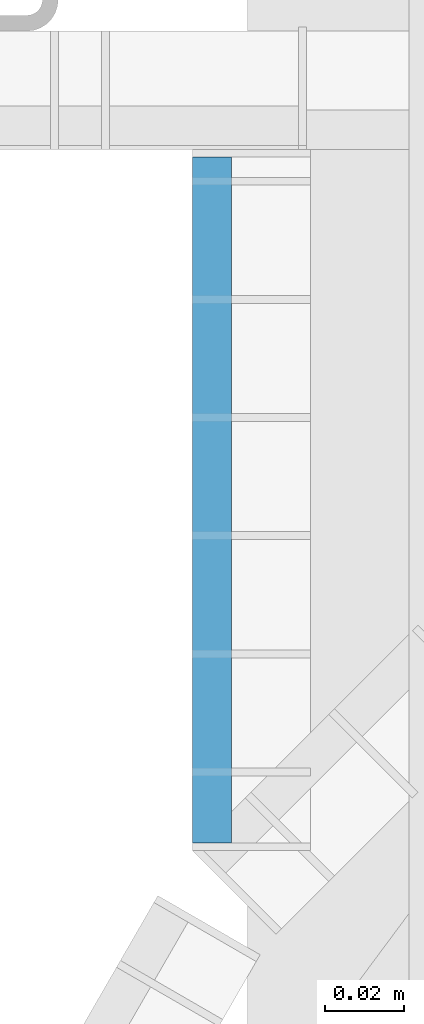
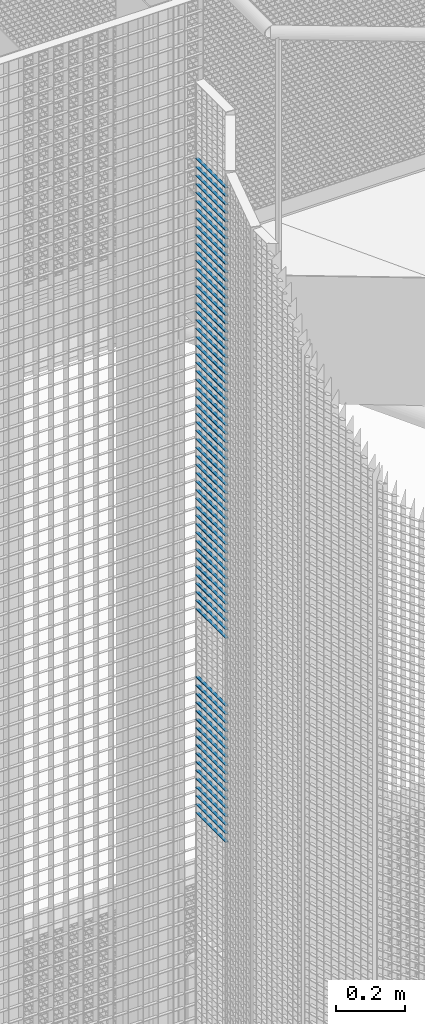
# One storey, part 187 of 1183: 71 beams, 1 element without a shape of its own.
"""IFC2X3 building model written with IfcOpenShell, lengths in millimetres."""

from ifc_helpers import new_model, si_unit, frame, origin_with_axes, origin_2d_with_axis, place, context, subcontext, project, spatial, rectangle, extrude, material, type_object, element, aggregate, save


model = new_model("IFC2X3")

# Units and contexts
model_context = context("Model", 3, precision=1e-05, world=origin_with_axes())
body_context = subcontext(model_context, "Body", "Model", "MODEL_VIEW")
ifc_project = project(units=[si_unit("LENGTHUNIT", "METRE", prefix="MILLI"), si_unit("AREAUNIT", "SQUARE_METRE"), si_unit("VOLUMEUNIT", "CUBIC_METRE"), si_unit("MASSUNIT", "GRAM", prefix="KILO"), si_unit("TIMEUNIT", "SECOND"), si_unit("PLANEANGLEUNIT", "RADIAN"), si_unit("SOLIDANGLEUNIT", "STERADIAN"), si_unit("THERMODYNAMICTEMPERATUREUNIT", "DEGREE_CELSIUS"), si_unit("LUMINOUSINTENSITYUNIT", "LUMEN")], contexts=[model_context])

# Site, building, storey
site_placement = place(None, origin_with_axes())
site = spatial("IfcSite", under=ifc_project, at=site_placement, Name="Undefined", CompositionType="ELEMENT")
building_placement = place(site_placement, origin_with_axes())
building = spatial("IfcBuilding", under=site, at=building_placement, Name="Undefined", CompositionType="ELEMENT")
storey_placement = place(building_placement, origin_with_axes())
storey = spatial("IfcBuildingStorey", under=building, at=storey_placement, Name="Undefined", CompositionType="ELEMENT", Elevation=0.0)

# Assembly, beams
assembly_placement = place(storey_placement, origin_with_axes())
assembly = element("IfcElementAssembly", 1, at=assembly_placement, inside=storey, Name="BORDURE", AssemblyPlace="NOTDEFINED", PredefinedType="NOTDEFINED")
ifc_material = material(Name="STEEL/S235JR")
beam_type = type_object("IfcBeamType", Name="PL2*10", PredefinedType="NOTDEFINED")
beam_1_placement = place(assembly_placement, frame((-884.882567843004, 867.997017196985, 17730.0), z_axis=(-1.0, 0.0, 0.0), x_axis=(0.0, -1.0, 0.0)))
beam_1 = element("IfcBeam", 2, at=beam_1_placement, type_object=beam_type, material=ifc_material, Name="ENTRETOISE", context=body_context, shape_type="SweptSolid", body=[
    extrude(rectangle(XDim=2.0, YDim=10.0, at=origin_2d_with_axis()), frame((174.109999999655, 0.0, 0.0), z_axis=(-1.0, 0.0, 0.0), x_axis=(0.0, -1.0, 0.0)), (0.0, 0.0, 1.0), 174.11),
])
beam_2_placement = place(assembly_placement, frame((-884.882567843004, 867.997017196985, 17700.0), z_axis=(-1.0, 0.0, 0.0), x_axis=(0.0, -1.0, 0.0)))
beam_2 = element("IfcBeam", 3, at=beam_2_placement, type_object=beam_type, material=ifc_material, Name="ENTRETOISE", context=body_context, shape_type="SweptSolid", body=[
    extrude(rectangle(XDim=2.0, YDim=10.0, at=origin_2d_with_axis()), frame((174.109999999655, 0.0, 0.0), z_axis=(-1.0, 0.0, 0.0), x_axis=(0.0, -1.0, 0.0)), (0.0, 0.0, 1.0), 174.11),
])
beam_3_placement = place(assembly_placement, frame((-884.882567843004, 867.997017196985, 17670.0), z_axis=(-1.0, 0.0, 0.0), x_axis=(0.0, -1.0, 0.0)))
beam_3 = element("IfcBeam", 4, at=beam_3_placement, type_object=beam_type, material=ifc_material, Name="ENTRETOISE", context=body_context, shape_type="SweptSolid", body=[
    extrude(rectangle(XDim=2.0, YDim=10.0, at=origin_2d_with_axis()), frame((174.109999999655, 0.0, 0.0), z_axis=(-1.0, 0.0, 0.0), x_axis=(0.0, -1.0, 0.0)), (0.0, 0.0, 1.0), 174.11),
])
beam_4_placement = place(assembly_placement, frame((-884.882567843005, 867.997017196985, 17640.0), z_axis=(-1.0, 0.0, 0.0), x_axis=(0.0, -1.0, 0.0)))
beam_4 = element("IfcBeam", 5, at=beam_4_placement, type_object=beam_type, material=ifc_material, Name="ENTRETOISE", context=body_context, shape_type="SweptSolid", body=[
    extrude(rectangle(XDim=2.0, YDim=10.0, at=origin_2d_with_axis()), frame((174.109999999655, 0.0, 0.0), z_axis=(-1.0, 0.0, 0.0), x_axis=(0.0, -1.0, 0.0)), (0.0, 0.0, 1.0), 174.11),
])
beam_5_placement = place(assembly_placement, frame((-884.882567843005, 867.997017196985, 17610.0), z_axis=(-1.0, 0.0, 0.0), x_axis=(0.0, -1.0, 0.0)))
beam_5 = element("IfcBeam", 6, at=beam_5_placement, type_object=beam_type, material=ifc_material, Name="ENTRETOISE", context=body_context, shape_type="SweptSolid", body=[
    extrude(rectangle(XDim=2.0, YDim=10.0, at=origin_2d_with_axis()), frame((174.109999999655, 0.0, 0.0), z_axis=(-1.0, 0.0, 0.0), x_axis=(0.0, -1.0, 0.0)), (0.0, 0.0, 1.0), 174.11),
])
beam_6_placement = place(assembly_placement, frame((-884.882567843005, 867.997017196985, 17580.0), z_axis=(-1.0, 0.0, 0.0), x_axis=(0.0, -1.0, 0.0)))
beam_6 = element("IfcBeam", 7, at=beam_6_placement, type_object=beam_type, material=ifc_material, Name="ENTRETOISE", context=body_context, shape_type="SweptSolid", body=[
    extrude(rectangle(XDim=2.0, YDim=10.0, at=origin_2d_with_axis()), frame((174.109999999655, 0.0, 0.0), z_axis=(-1.0, 0.0, 0.0), x_axis=(0.0, -1.0, 0.0)), (0.0, 0.0, 1.0), 174.11),
])
beam_7_placement = place(assembly_placement, frame((-884.882567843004, 867.997017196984, 17550.0), z_axis=(-1.0, 0.0, 0.0), x_axis=(0.0, -1.0, 0.0)))
beam_7 = element("IfcBeam", 8, at=beam_7_placement, type_object=beam_type, material=ifc_material, Name="ENTRETOISE", context=body_context, shape_type="SweptSolid", body=[
    extrude(rectangle(XDim=2.0, YDim=10.0, at=origin_2d_with_axis()), frame((174.109999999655, 0.0, 0.0), z_axis=(-1.0, 0.0, 0.0), x_axis=(0.0, -1.0, 0.0)), (0.0, 0.0, 1.0), 174.11),
])
beam_8_placement = place(assembly_placement, frame((-884.882567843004, 867.997017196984, 17520.0), z_axis=(-1.0, 0.0, 0.0), x_axis=(0.0, -1.0, 0.0)))
beam_8 = element("IfcBeam", 9, at=beam_8_placement, type_object=beam_type, material=ifc_material, Name="ENTRETOISE", context=body_context, shape_type="SweptSolid", body=[
    extrude(rectangle(XDim=2.0, YDim=10.0, at=origin_2d_with_axis()), frame((174.109999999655, 0.0, 0.0), z_axis=(-1.0, 0.0, 0.0), x_axis=(0.0, -1.0, 0.0)), (0.0, 0.0, 1.0), 174.11),
])
beam_9_placement = place(assembly_placement, frame((-884.882567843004, 867.997017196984, 17490.0), z_axis=(-1.0, 0.0, 0.0), x_axis=(0.0, -1.0, 0.0)))
beam_9 = element("IfcBeam", 10, at=beam_9_placement, type_object=beam_type, material=ifc_material, Name="ENTRETOISE", context=body_context, shape_type="SweptSolid", body=[
    extrude(rectangle(XDim=2.0, YDim=10.0, at=origin_2d_with_axis()), frame((174.109999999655, 0.0, 0.0), z_axis=(-1.0, 0.0, 0.0), x_axis=(0.0, -1.0, 0.0)), (0.0, 0.0, 1.0), 174.11),
])
beam_10_placement = place(assembly_placement, frame((-884.882567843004, 867.997017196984, 17460.0), z_axis=(-1.0, 0.0, 0.0), x_axis=(0.0, -1.0, 0.0)))
beam_10 = element("IfcBeam", 11, at=beam_10_placement, type_object=beam_type, material=ifc_material, Name="ENTRETOISE", context=body_context, shape_type="SweptSolid", body=[
    extrude(rectangle(XDim=2.0, YDim=10.0, at=origin_2d_with_axis()), frame((174.109999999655, 0.0, 0.0), z_axis=(-1.0, 0.0, 0.0), x_axis=(0.0, -1.0, 0.0)), (0.0, 0.0, 1.0), 174.11),
])
beam_11_placement = place(assembly_placement, frame((-884.882567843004, 867.997017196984, 17430.0), z_axis=(-1.0, 0.0, 0.0), x_axis=(0.0, -1.0, 0.0)))
beam_11 = element("IfcBeam", 12, at=beam_11_placement, type_object=beam_type, material=ifc_material, Name="ENTRETOISE", context=body_context, shape_type="SweptSolid", body=[
    extrude(rectangle(XDim=2.0, YDim=10.0, at=origin_2d_with_axis()), frame((174.109999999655, 0.0, 0.0), z_axis=(-1.0, 0.0, 0.0), x_axis=(0.0, -1.0, 0.0)), (0.0, 0.0, 1.0), 174.11),
])
beam_12_placement = place(assembly_placement, frame((-884.882567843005, 867.997017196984, 17400.0), z_axis=(-1.0, 0.0, 0.0), x_axis=(0.0, -1.0, 0.0)))
beam_12 = element("IfcBeam", 13, at=beam_12_placement, type_object=beam_type, material=ifc_material, Name="ENTRETOISE", context=body_context, shape_type="SweptSolid", body=[
    extrude(rectangle(XDim=2.0, YDim=10.0, at=origin_2d_with_axis()), frame((174.109999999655, 0.0, 0.0), z_axis=(-1.0, 0.0, 0.0), x_axis=(0.0, -1.0, 0.0)), (0.0, 0.0, 1.0), 174.11),
])
beam_13_placement = place(assembly_placement, frame((-884.882567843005, 867.997017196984, 17370.0), z_axis=(-1.0, 0.0, 0.0), x_axis=(0.0, -1.0, 0.0)))
beam_13 = element("IfcBeam", 14, at=beam_13_placement, type_object=beam_type, material=ifc_material, Name="ENTRETOISE", context=body_context, shape_type="SweptSolid", body=[
    extrude(rectangle(XDim=2.0, YDim=10.0, at=origin_2d_with_axis()), frame((174.109999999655, 0.0, 0.0), z_axis=(-1.0, 0.0, 0.0), x_axis=(0.0, -1.0, 0.0)), (0.0, 0.0, 1.0), 174.11),
])
beam_14_placement = place(assembly_placement, frame((-884.882567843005, 867.997017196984, 17340.0), z_axis=(-1.0, 0.0, 0.0), x_axis=(0.0, -1.0, 0.0)))
beam_14 = element("IfcBeam", 15, at=beam_14_placement, type_object=beam_type, material=ifc_material, Name="ENTRETOISE", context=body_context, shape_type="SweptSolid", body=[
    extrude(rectangle(XDim=2.0, YDim=10.0, at=origin_2d_with_axis()), frame((174.109999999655, 0.0, 0.0), z_axis=(-1.0, 0.0, 0.0), x_axis=(0.0, -1.0, 0.0)), (0.0, 0.0, 1.0), 174.11),
])
beam_15_placement = place(assembly_placement, frame((-884.882567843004, 867.997017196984, 17310.0), z_axis=(-1.0, 0.0, 0.0), x_axis=(0.0, -1.0, 0.0)))
beam_15 = element("IfcBeam", 16, at=beam_15_placement, type_object=beam_type, material=ifc_material, Name="ENTRETOISE", context=body_context, shape_type="SweptSolid", body=[
    extrude(rectangle(XDim=2.0, YDim=10.0, at=origin_2d_with_axis()), frame((174.109999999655, 0.0, 0.0), z_axis=(-1.0, 0.0, 0.0), x_axis=(0.0, -1.0, 0.0)), (0.0, 0.0, 1.0), 174.11),
])
beam_16_placement = place(assembly_placement, frame((-884.882567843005, 867.997017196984, 17280.0), z_axis=(-1.0, 0.0, 0.0), x_axis=(0.0, -1.0, 0.0)))
beam_16 = element("IfcBeam", 17, at=beam_16_placement, type_object=beam_type, material=ifc_material, Name="ENTRETOISE", context=body_context, shape_type="SweptSolid", body=[
    extrude(rectangle(XDim=2.0, YDim=10.0, at=origin_2d_with_axis()), frame((174.109999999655, 0.0, 0.0), z_axis=(-1.0, 0.0, 0.0), x_axis=(0.0, -1.0, 0.0)), (0.0, 0.0, 1.0), 174.11),
])
beam_17_placement = place(assembly_placement, frame((-884.882567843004, 867.997017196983, 17250.0), z_axis=(-1.0, 0.0, 0.0), x_axis=(0.0, -1.0, 0.0)))
beam_17 = element("IfcBeam", 18, at=beam_17_placement, type_object=beam_type, material=ifc_material, Name="ENTRETOISE", context=body_context, shape_type="SweptSolid", body=[
    extrude(rectangle(XDim=2.0, YDim=10.0, at=origin_2d_with_axis()), frame((174.109999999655, 0.0, 0.0), z_axis=(-1.0, 0.0, 0.0), x_axis=(0.0, -1.0, 0.0)), (0.0, 0.0, 1.0), 174.11),
])
beam_18_placement = place(assembly_placement, frame((-884.882567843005, 867.997017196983, 17220.0), z_axis=(-1.0, 0.0, 0.0), x_axis=(0.0, -1.0, 0.0)))
beam_18 = element("IfcBeam", 19, at=beam_18_placement, type_object=beam_type, material=ifc_material, Name="ENTRETOISE", context=body_context, shape_type="SweptSolid", body=[
    extrude(rectangle(XDim=2.0, YDim=10.0, at=origin_2d_with_axis()), frame((174.109999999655, 0.0, 0.0), z_axis=(-1.0, 0.0, 0.0), x_axis=(0.0, -1.0, 0.0)), (0.0, 0.0, 1.0), 174.11),
])
beam_19_placement = place(assembly_placement, frame((-884.882567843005, 867.997017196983, 17190.0), z_axis=(-1.0, 0.0, 0.0), x_axis=(0.0, -1.0, 0.0)))
beam_19 = element("IfcBeam", 20, at=beam_19_placement, type_object=beam_type, material=ifc_material, Name="ENTRETOISE", context=body_context, shape_type="SweptSolid", body=[
    extrude(rectangle(XDim=2.0, YDim=10.0, at=origin_2d_with_axis()), frame((174.109999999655, 0.0, 0.0), z_axis=(-1.0, 0.0, 0.0), x_axis=(0.0, -1.0, 0.0)), (0.0, 0.0, 1.0), 174.11),
])
beam_20_placement = place(assembly_placement, frame((-884.882567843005, 867.997017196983, 17160.0), z_axis=(-1.0, 0.0, 0.0), x_axis=(0.0, -1.0, 0.0)))
beam_20 = element("IfcBeam", 21, at=beam_20_placement, type_object=beam_type, material=ifc_material, Name="ENTRETOISE", context=body_context, shape_type="SweptSolid", body=[
    extrude(rectangle(XDim=2.0, YDim=10.0, at=origin_2d_with_axis()), frame((174.109999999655, 0.0, 0.0), z_axis=(-1.0, 0.0, 0.0), x_axis=(0.0, -1.0, 0.0)), (0.0, 0.0, 1.0), 174.11),
])
beam_21_placement = place(assembly_placement, frame((-884.882567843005, 867.997017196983, 17130.0), z_axis=(-1.0, 0.0, 0.0), x_axis=(0.0, -1.0, 0.0)))
beam_21 = element("IfcBeam", 22, at=beam_21_placement, type_object=beam_type, material=ifc_material, Name="ENTRETOISE", context=body_context, shape_type="SweptSolid", body=[
    extrude(rectangle(XDim=2.0, YDim=10.0, at=origin_2d_with_axis()), frame((174.109999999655, 0.0, 0.0), z_axis=(-1.0, 0.0, 0.0), x_axis=(0.0, -1.0, 0.0)), (0.0, 0.0, 1.0), 174.11),
])
beam_22_placement = place(assembly_placement, frame((-884.882567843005, 867.997017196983, 17100.0), z_axis=(-1.0, 0.0, 0.0), x_axis=(0.0, -1.0, 0.0)))
beam_22 = element("IfcBeam", 23, at=beam_22_placement, type_object=beam_type, material=ifc_material, Name="ENTRETOISE", context=body_context, shape_type="SweptSolid", body=[
    extrude(rectangle(XDim=2.0, YDim=10.0, at=origin_2d_with_axis()), frame((174.109999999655, 0.0, 0.0), z_axis=(-1.0, 0.0, 0.0), x_axis=(0.0, -1.0, 0.0)), (0.0, 0.0, 1.0), 174.11),
])
beam_23_placement = place(assembly_placement, frame((-884.882567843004, 867.997017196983, 17070.0), z_axis=(-1.0, 0.0, 0.0), x_axis=(0.0, -1.0, 0.0)))
beam_23 = element("IfcBeam", 24, at=beam_23_placement, type_object=beam_type, material=ifc_material, Name="ENTRETOISE", context=body_context, shape_type="SweptSolid", body=[
    extrude(rectangle(XDim=2.0, YDim=10.0, at=origin_2d_with_axis()), frame((174.109999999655, 0.0, 0.0), z_axis=(-1.0, 0.0, 0.0), x_axis=(0.0, -1.0, 0.0)), (0.0, 0.0, 1.0), 174.11),
])
beam_24_placement = place(assembly_placement, frame((-884.882567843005, 867.997017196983, 17040.0), z_axis=(-1.0, 0.0, 0.0), x_axis=(0.0, -1.0, 0.0)))
beam_24 = element("IfcBeam", 25, at=beam_24_placement, type_object=beam_type, material=ifc_material, Name="ENTRETOISE", context=body_context, shape_type="SweptSolid", body=[
    extrude(rectangle(XDim=2.0, YDim=10.0, at=origin_2d_with_axis()), frame((174.109999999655, 0.0, 0.0), z_axis=(-1.0, 0.0, 0.0), x_axis=(0.0, -1.0, 0.0)), (0.0, 0.0, 1.0), 174.11),
])
beam_25_placement = place(assembly_placement, frame((-884.882567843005, 867.997017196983, 17010.0), z_axis=(-1.0, 0.0, 0.0), x_axis=(0.0, -1.0, 0.0)))
beam_25 = element("IfcBeam", 26, at=beam_25_placement, type_object=beam_type, material=ifc_material, Name="ENTRETOISE", context=body_context, shape_type="SweptSolid", body=[
    extrude(rectangle(XDim=2.0, YDim=10.0, at=origin_2d_with_axis()), frame((174.109999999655, 0.0, 0.0), z_axis=(-1.0, 0.0, 0.0), x_axis=(0.0, -1.0, 0.0)), (0.0, 0.0, 1.0), 174.11),
])
beam_26_placement = place(assembly_placement, frame((-884.882567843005, 867.997017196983, 16980.0), z_axis=(-1.0, 0.0, 0.0), x_axis=(0.0, -1.0, 0.0)))
beam_26 = element("IfcBeam", 27, at=beam_26_placement, type_object=beam_type, material=ifc_material, Name="ENTRETOISE", context=body_context, shape_type="SweptSolid", body=[
    extrude(rectangle(XDim=2.0, YDim=10.0, at=origin_2d_with_axis()), frame((174.109999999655, 0.0, 0.0), z_axis=(-1.0, 0.0, 0.0), x_axis=(0.0, -1.0, 0.0)), (0.0, 0.0, 1.0), 174.11),
])
beam_27_placement = place(assembly_placement, frame((-884.882567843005, 867.997017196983, 16950.0), z_axis=(-1.0, 0.0, 0.0), x_axis=(0.0, -1.0, 0.0)))
beam_27 = element("IfcBeam", 28, at=beam_27_placement, type_object=beam_type, material=ifc_material, Name="ENTRETOISE", context=body_context, shape_type="SweptSolid", body=[
    extrude(rectangle(XDim=2.0, YDim=10.0, at=origin_2d_with_axis()), frame((174.109999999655, 0.0, 0.0), z_axis=(-1.0, 0.0, 0.0), x_axis=(0.0, -1.0, 0.0)), (0.0, 0.0, 1.0), 174.11),
])
beam_28_placement = place(assembly_placement, frame((-884.882567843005, 867.997017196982, 16920.0), z_axis=(-1.0, 0.0, 0.0), x_axis=(0.0, -1.0, 0.0)))
beam_28 = element("IfcBeam", 29, at=beam_28_placement, type_object=beam_type, material=ifc_material, Name="ENTRETOISE", context=body_context, shape_type="SweptSolid", body=[
    extrude(rectangle(XDim=2.0, YDim=10.0, at=origin_2d_with_axis()), frame((174.109999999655, 0.0, 0.0), z_axis=(-1.0, 0.0, 0.0), x_axis=(0.0, -1.0, 0.0)), (0.0, 0.0, 1.0), 174.11),
])
beam_29_placement = place(assembly_placement, frame((-884.882567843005, 867.997017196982, 16890.0), z_axis=(-1.0, 0.0, 0.0), x_axis=(0.0, -1.0, 0.0)))
beam_29 = element("IfcBeam", 30, at=beam_29_placement, type_object=beam_type, material=ifc_material, Name="ENTRETOISE", context=body_context, shape_type="SweptSolid", body=[
    extrude(rectangle(XDim=2.0, YDim=10.0, at=origin_2d_with_axis()), frame((174.109999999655, 0.0, 0.0), z_axis=(-1.0, 0.0, 0.0), x_axis=(0.0, -1.0, 0.0)), (0.0, 0.0, 1.0), 174.11),
])
beam_30_placement = place(assembly_placement, frame((-884.882567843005, 867.997017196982, 16860.0), z_axis=(-1.0, 0.0, 0.0), x_axis=(0.0, -1.0, 0.0)))
beam_30 = element("IfcBeam", 31, at=beam_30_placement, type_object=beam_type, material=ifc_material, Name="ENTRETOISE", context=body_context, shape_type="SweptSolid", body=[
    extrude(rectangle(XDim=2.0, YDim=10.0, at=origin_2d_with_axis()), frame((174.109999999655, 0.0, 0.0), z_axis=(-1.0, 0.0, 0.0), x_axis=(0.0, -1.0, 0.0)), (0.0, 0.0, 1.0), 174.11),
])
beam_31_placement = place(assembly_placement, frame((-884.882567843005, 867.997017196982, 16830.0), z_axis=(-1.0, 0.0, 0.0), x_axis=(0.0, -1.0, 0.0)))
beam_31 = element("IfcBeam", 32, at=beam_31_placement, type_object=beam_type, material=ifc_material, Name="ENTRETOISE", context=body_context, shape_type="SweptSolid", body=[
    extrude(rectangle(XDim=2.0, YDim=10.0, at=origin_2d_with_axis()), frame((174.109999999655, 0.0, 0.0), z_axis=(-1.0, 0.0, 0.0), x_axis=(0.0, -1.0, 0.0)), (0.0, 0.0, 1.0), 174.11),
])
beam_32_placement = place(assembly_placement, frame((-884.882567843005, 867.997017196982, 16800.0), z_axis=(-1.0, 0.0, 0.0), x_axis=(0.0, -1.0, 0.0)))
beam_32 = element("IfcBeam", 33, at=beam_32_placement, type_object=beam_type, material=ifc_material, Name="ENTRETOISE", context=body_context, shape_type="SweptSolid", body=[
    extrude(rectangle(XDim=2.0, YDim=10.0, at=origin_2d_with_axis()), frame((174.109999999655, 0.0, 0.0), z_axis=(-1.0, 0.0, 0.0), x_axis=(0.0, -1.0, 0.0)), (0.0, 0.0, 1.0), 174.11),
])
beam_33_placement = place(assembly_placement, frame((-884.882567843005, 867.997017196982, 16770.0), z_axis=(-1.0, 0.0, 0.0), x_axis=(0.0, -1.0, 0.0)))
beam_33 = element("IfcBeam", 34, at=beam_33_placement, type_object=beam_type, material=ifc_material, Name="ENTRETOISE", context=body_context, shape_type="SweptSolid", body=[
    extrude(rectangle(XDim=2.0, YDim=10.0, at=origin_2d_with_axis()), frame((174.109999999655, 0.0, 0.0), z_axis=(-1.0, 0.0, 0.0), x_axis=(0.0, -1.0, 0.0)), (0.0, 0.0, 1.0), 174.11),
])
beam_34_placement = place(assembly_placement, frame((-884.882567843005, 867.997017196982, 16740.0), z_axis=(-1.0, 0.0, 0.0), x_axis=(0.0, -1.0, 0.0)))
beam_34 = element("IfcBeam", 35, at=beam_34_placement, type_object=beam_type, material=ifc_material, Name="ENTRETOISE", context=body_context, shape_type="SweptSolid", body=[
    extrude(rectangle(XDim=2.0, YDim=10.0, at=origin_2d_with_axis()), frame((174.109999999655, 0.0, 0.0), z_axis=(-1.0, 0.0, 0.0), x_axis=(0.0, -1.0, 0.0)), (0.0, 0.0, 1.0), 174.11),
])
beam_35_placement = place(assembly_placement, frame((-884.882567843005, 867.997017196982, 16710.0), z_axis=(-1.0, 0.0, 0.0), x_axis=(0.0, -1.0, 0.0)))
beam_35 = element("IfcBeam", 36, at=beam_35_placement, type_object=beam_type, material=ifc_material, Name="ENTRETOISE", context=body_context, shape_type="SweptSolid", body=[
    extrude(rectangle(XDim=2.0, YDim=10.0, at=origin_2d_with_axis()), frame((174.109999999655, 0.0, 0.0), z_axis=(-1.0, 0.0, 0.0), x_axis=(0.0, -1.0, 0.0)), (0.0, 0.0, 1.0), 174.11),
])
beam_36_placement = place(assembly_placement, frame((-884.882567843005, 867.997017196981, 16680.0), z_axis=(-1.0, 0.0, 0.0), x_axis=(0.0, -1.0, 0.0)))
beam_36 = element("IfcBeam", 37, at=beam_36_placement, type_object=beam_type, material=ifc_material, Name="ENTRETOISE", context=body_context, shape_type="SweptSolid", body=[
    extrude(rectangle(XDim=2.0, YDim=10.0, at=origin_2d_with_axis()), frame((174.109999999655, 0.0, 0.0), z_axis=(-1.0, 0.0, 0.0), x_axis=(0.0, -1.0, 0.0)), (0.0, 0.0, 1.0), 174.11),
])
beam_37_placement = place(assembly_placement, frame((-884.882567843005, 867.997017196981, 16650.0), z_axis=(-1.0, 0.0, 0.0), x_axis=(0.0, -1.0, 0.0)))
beam_37 = element("IfcBeam", 38, at=beam_37_placement, type_object=beam_type, material=ifc_material, Name="ENTRETOISE", context=body_context, shape_type="SweptSolid", body=[
    extrude(rectangle(XDim=2.0, YDim=10.0, at=origin_2d_with_axis()), frame((174.109999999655, 0.0, 0.0), z_axis=(-1.0, 0.0, 0.0), x_axis=(0.0, -1.0, 0.0)), (0.0, 0.0, 1.0), 174.11),
])
beam_38_placement = place(assembly_placement, frame((-884.882567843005, 867.997017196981, 16620.0), z_axis=(-1.0, 0.0, 0.0), x_axis=(0.0, -1.0, 0.0)))
beam_38 = element("IfcBeam", 39, at=beam_38_placement, type_object=beam_type, material=ifc_material, Name="ENTRETOISE", context=body_context, shape_type="SweptSolid", body=[
    extrude(rectangle(XDim=2.0, YDim=10.0, at=origin_2d_with_axis()), frame((174.109999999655, 0.0, 0.0), z_axis=(-1.0, 0.0, 0.0), x_axis=(0.0, -1.0, 0.0)), (0.0, 0.0, 1.0), 174.11),
])
beam_39_placement = place(assembly_placement, frame((-884.882567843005, 867.997017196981, 16590.0), z_axis=(-1.0, 0.0, 0.0), x_axis=(0.0, -1.0, 0.0)))
beam_39 = element("IfcBeam", 40, at=beam_39_placement, type_object=beam_type, material=ifc_material, Name="ENTRETOISE", context=body_context, shape_type="SweptSolid", body=[
    extrude(rectangle(XDim=2.0, YDim=10.0, at=origin_2d_with_axis()), frame((174.109999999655, 0.0, 0.0), z_axis=(-1.0, 0.0, 0.0), x_axis=(0.0, -1.0, 0.0)), (0.0, 0.0, 1.0), 174.11),
])
beam_40_placement = place(assembly_placement, frame((-884.882567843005, 867.997017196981, 16560.0), z_axis=(-1.0, 0.0, 0.0), x_axis=(0.0, -1.0, 0.0)))
beam_40 = element("IfcBeam", 41, at=beam_40_placement, type_object=beam_type, material=ifc_material, Name="ENTRETOISE", context=body_context, shape_type="SweptSolid", body=[
    extrude(rectangle(XDim=2.0, YDim=10.0, at=origin_2d_with_axis()), frame((174.109999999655, 0.0, 0.0), z_axis=(-1.0, 0.0, 0.0), x_axis=(0.0, -1.0, 0.0)), (0.0, 0.0, 1.0), 174.11),
])
beam_41_placement = place(assembly_placement, frame((-884.882567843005, 867.997017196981, 16530.0), z_axis=(-1.0, 0.0, 0.0), x_axis=(0.0, -1.0, 0.0)))
beam_41 = element("IfcBeam", 42, at=beam_41_placement, type_object=beam_type, material=ifc_material, Name="ENTRETOISE", context=body_context, shape_type="SweptSolid", body=[
    extrude(rectangle(XDim=2.0, YDim=10.0, at=origin_2d_with_axis()), frame((174.109999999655, 0.0, 0.0), z_axis=(-1.0, 0.0, 0.0), x_axis=(0.0, -1.0, 0.0)), (0.0, 0.0, 1.0), 174.11),
])
beam_42_placement = place(assembly_placement, frame((-884.882567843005, 867.997017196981, 16500.0), z_axis=(-1.0, 0.0, 0.0), x_axis=(0.0, -1.0, 0.0)))
beam_42 = element("IfcBeam", 43, at=beam_42_placement, type_object=beam_type, material=ifc_material, Name="ENTRETOISE", context=body_context, shape_type="SweptSolid", body=[
    extrude(rectangle(XDim=2.0, YDim=10.0, at=origin_2d_with_axis()), frame((174.109999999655, 0.0, 0.0), z_axis=(-1.0, 0.0, 0.0), x_axis=(0.0, -1.0, 0.0)), (0.0, 0.0, 1.0), 174.11),
])
beam_43_placement = place(assembly_placement, frame((-884.882567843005, 867.997017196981, 16470.0), z_axis=(-1.0, 0.0, 0.0), x_axis=(0.0, -1.0, 0.0)))
beam_43 = element("IfcBeam", 44, at=beam_43_placement, type_object=beam_type, material=ifc_material, Name="ENTRETOISE", context=body_context, shape_type="SweptSolid", body=[
    extrude(rectangle(XDim=2.0, YDim=10.0, at=origin_2d_with_axis()), frame((174.109999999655, 0.0, 0.0), z_axis=(-1.0, 0.0, 0.0), x_axis=(0.0, -1.0, 0.0)), (0.0, 0.0, 1.0), 174.11),
])
beam_44_placement = place(assembly_placement, frame((-884.882567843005, 867.997017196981, 16440.0), z_axis=(-1.0, 0.0, 0.0), x_axis=(0.0, -1.0, 0.0)))
beam_44 = element("IfcBeam", 45, at=beam_44_placement, type_object=beam_type, material=ifc_material, Name="ENTRETOISE", context=body_context, shape_type="SweptSolid", body=[
    extrude(rectangle(XDim=2.0, YDim=10.0, at=origin_2d_with_axis()), frame((174.109999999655, 0.0, 0.0), z_axis=(-1.0, 0.0, 0.0), x_axis=(0.0, -1.0, 0.0)), (0.0, 0.0, 1.0), 174.11),
])
beam_45_placement = place(assembly_placement, frame((-884.882567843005, 867.997017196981, 16410.0), z_axis=(-1.0, 0.0, 0.0), x_axis=(0.0, -1.0, 0.0)))
beam_45 = element("IfcBeam", 46, at=beam_45_placement, type_object=beam_type, material=ifc_material, Name="ENTRETOISE", context=body_context, shape_type="SweptSolid", body=[
    extrude(rectangle(XDim=2.0, YDim=10.0, at=origin_2d_with_axis()), frame((174.109999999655, 0.0, 0.0), z_axis=(-1.0, 0.0, 0.0), x_axis=(0.0, -1.0, 0.0)), (0.0, 0.0, 1.0), 174.11),
])
beam_46_placement = place(assembly_placement, frame((-884.882567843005, 867.99701719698, 16380.0), z_axis=(-1.0, 0.0, 0.0), x_axis=(0.0, -1.0, 0.0)))
beam_46 = element("IfcBeam", 47, at=beam_46_placement, type_object=beam_type, material=ifc_material, Name="ENTRETOISE", context=body_context, shape_type="SweptSolid", body=[
    extrude(rectangle(XDim=2.0, YDim=10.0, at=origin_2d_with_axis()), frame((174.109999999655, 0.0, 0.0), z_axis=(-1.0, 0.0, 0.0), x_axis=(0.0, -1.0, 0.0)), (0.0, 0.0, 1.0), 174.11),
])
beam_47_placement = place(assembly_placement, frame((-884.882567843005, 867.99701719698, 16350.0), z_axis=(-1.0, 0.0, 0.0), x_axis=(0.0, -1.0, 0.0)))
beam_47 = element("IfcBeam", 48, at=beam_47_placement, type_object=beam_type, material=ifc_material, Name="ENTRETOISE", context=body_context, shape_type="SweptSolid", body=[
    extrude(rectangle(XDim=2.0, YDim=10.0, at=origin_2d_with_axis()), frame((174.109999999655, 0.0, 0.0), z_axis=(-1.0, 0.0, 0.0), x_axis=(0.0, -1.0, 0.0)), (0.0, 0.0, 1.0), 174.11),
])
beam_48_placement = place(assembly_placement, frame((-884.882567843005, 867.99701719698, 16320.0), z_axis=(-1.0, 0.0, 0.0), x_axis=(0.0, -1.0, 0.0)))
beam_48 = element("IfcBeam", 49, at=beam_48_placement, type_object=beam_type, material=ifc_material, Name="ENTRETOISE", context=body_context, shape_type="SweptSolid", body=[
    extrude(rectangle(XDim=2.0, YDim=10.0, at=origin_2d_with_axis()), frame((174.109999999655, 0.0, 0.0), z_axis=(-1.0, 0.0, 0.0), x_axis=(0.0, -1.0, 0.0)), (0.0, 0.0, 1.0), 174.11),
])
beam_49_placement = place(assembly_placement, frame((-884.882567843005, 867.99701719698, 16290.0), z_axis=(-1.0, 0.0, 0.0), x_axis=(0.0, -1.0, 0.0)))
beam_49 = element("IfcBeam", 50, at=beam_49_placement, type_object=beam_type, material=ifc_material, Name="ENTRETOISE", context=body_context, shape_type="SweptSolid", body=[
    extrude(rectangle(XDim=2.0, YDim=10.0, at=origin_2d_with_axis()), frame((174.109999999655, 0.0, 0.0), z_axis=(-1.0, 0.0, 0.0), x_axis=(0.0, -1.0, 0.0)), (0.0, 0.0, 1.0), 174.11),
])
beam_50_placement = place(assembly_placement, frame((-884.882567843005, 867.99701719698, 16260.0), z_axis=(-1.0, 0.0, 0.0), x_axis=(0.0, -1.0, 0.0)))
beam_50 = element("IfcBeam", 51, at=beam_50_placement, type_object=beam_type, material=ifc_material, Name="ENTRETOISE", context=body_context, shape_type="SweptSolid", body=[
    extrude(rectangle(XDim=2.0, YDim=10.0, at=origin_2d_with_axis()), frame((174.109999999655, 0.0, 0.0), z_axis=(-1.0, 0.0, 0.0), x_axis=(0.0, -1.0, 0.0)), (0.0, 0.0, 1.0), 174.11),
])
beam_51_placement = place(assembly_placement, frame((-884.882567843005, 867.99701719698, 16230.0), z_axis=(-1.0, 0.0, 0.0), x_axis=(0.0, -1.0, 0.0)))
beam_51 = element("IfcBeam", 52, at=beam_51_placement, type_object=beam_type, material=ifc_material, Name="ENTRETOISE", context=body_context, shape_type="SweptSolid", body=[
    extrude(rectangle(XDim=2.0, YDim=10.0, at=origin_2d_with_axis()), frame((174.109999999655, 0.0, 0.0), z_axis=(-1.0, 0.0, 0.0), x_axis=(0.0, -1.0, 0.0)), (0.0, 0.0, 1.0), 174.11),
])
beam_52_placement = place(assembly_placement, frame((-884.882567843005, 867.99701719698, 16200.0), z_axis=(-1.0, 0.0, 0.0), x_axis=(0.0, -1.0, 0.0)))
beam_52 = element("IfcBeam", 53, at=beam_52_placement, type_object=beam_type, material=ifc_material, Name="ENTRETOISE", context=body_context, shape_type="SweptSolid", body=[
    extrude(rectangle(XDim=2.0, YDim=10.0, at=origin_2d_with_axis()), frame((174.109999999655, 0.0, 0.0), z_axis=(-1.0, 0.0, 0.0), x_axis=(0.0, -1.0, 0.0)), (0.0, 0.0, 1.0), 174.11),
])
beam_53_placement = place(assembly_placement, frame((-884.882567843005, 867.99701719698, 16170.0), z_axis=(-1.0, 0.0, 0.0), x_axis=(0.0, -1.0, 0.0)))
beam_53 = element("IfcBeam", 54, at=beam_53_placement, type_object=beam_type, material=ifc_material, Name="ENTRETOISE", context=body_context, shape_type="SweptSolid", body=[
    extrude(rectangle(XDim=2.0, YDim=10.0, at=origin_2d_with_axis()), frame((174.109999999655, 0.0, 0.0), z_axis=(-1.0, 0.0, 0.0), x_axis=(0.0, -1.0, 0.0)), (0.0, 0.0, 1.0), 174.11),
])
beam_54_placement = place(assembly_placement, frame((-884.882567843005, 867.99701719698, 16140.0), z_axis=(-1.0, 0.0, 0.0), x_axis=(0.0, -1.0, 0.0)))
beam_54 = element("IfcBeam", 55, at=beam_54_placement, type_object=beam_type, material=ifc_material, Name="ENTRETOISE", context=body_context, shape_type="SweptSolid", body=[
    extrude(rectangle(XDim=2.0, YDim=10.0, at=origin_2d_with_axis()), frame((174.109999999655, 0.0, 0.0), z_axis=(-1.0, 0.0, 0.0), x_axis=(0.0, -1.0, 0.0)), (0.0, 0.0, 1.0), 174.11),
])
beam_55_placement = place(assembly_placement, frame((-884.882567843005, 867.997017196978, 15720.0), z_axis=(-1.0, 0.0, 0.0), x_axis=(0.0, -1.0, 0.0)))
beam_55 = element("IfcBeam", 56, at=beam_55_placement, type_object=beam_type, material=ifc_material, Name="ENTRETOISE", context=body_context, shape_type="SweptSolid", body=[
    extrude(rectangle(XDim=2.0, YDim=10.0, at=origin_2d_with_axis()), frame((174.109999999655, 0.0, 0.0), z_axis=(-1.0, 0.0, 0.0), x_axis=(0.0, -1.0, 0.0)), (0.0, 0.0, 1.0), 174.11),
])
beam_56_placement = place(assembly_placement, frame((-884.882567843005, 867.997017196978, 15690.0), z_axis=(-1.0, 0.0, 0.0), x_axis=(0.0, -1.0, 0.0)))
beam_56 = element("IfcBeam", 57, at=beam_56_placement, type_object=beam_type, material=ifc_material, Name="ENTRETOISE", context=body_context, shape_type="SweptSolid", body=[
    extrude(rectangle(XDim=2.0, YDim=10.0, at=origin_2d_with_axis()), frame((174.109999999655, 0.0, 0.0), z_axis=(-1.0, 0.0, 0.0), x_axis=(0.0, -1.0, 0.0)), (0.0, 0.0, 1.0), 174.11),
])
beam_57_placement = place(assembly_placement, frame((-884.882567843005, 867.997017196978, 15750.0), z_axis=(-1.0, 0.0, 0.0), x_axis=(0.0, -1.0, 0.0)))
beam_57 = element("IfcBeam", 58, at=beam_57_placement, type_object=beam_type, material=ifc_material, Name="ENTRETOISE", context=body_context, shape_type="SweptSolid", body=[
    extrude(rectangle(XDim=2.0, YDim=10.0, at=origin_2d_with_axis()), frame((174.109999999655, 0.0, 0.0), z_axis=(-1.0, 0.0, 0.0), x_axis=(0.0, -1.0, 0.0)), (0.0, 0.0, 1.0), 174.11),
])
beam_58_placement = place(assembly_placement, frame((-884.882567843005, 867.997017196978, 15660.0), z_axis=(-1.0, 0.0, 0.0), x_axis=(0.0, -1.0, 0.0)))
beam_58 = element("IfcBeam", 59, at=beam_58_placement, type_object=beam_type, material=ifc_material, Name="ENTRETOISE", context=body_context, shape_type="SweptSolid", body=[
    extrude(rectangle(XDim=2.0, YDim=10.0, at=origin_2d_with_axis()), frame((174.109999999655, 0.0, 0.0), z_axis=(-1.0, 0.0, 0.0), x_axis=(0.0, -1.0, 0.0)), (0.0, 0.0, 1.0), 174.11),
])
beam_59_placement = place(assembly_placement, frame((-884.882567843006, 867.997017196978, 15630.0), z_axis=(-1.0, 0.0, 0.0), x_axis=(0.0, -1.0, 0.0)))
beam_59 = element("IfcBeam", 60, at=beam_59_placement, type_object=beam_type, material=ifc_material, Name="ENTRETOISE", context=body_context, shape_type="SweptSolid", body=[
    extrude(rectangle(XDim=2.0, YDim=10.0, at=origin_2d_with_axis()), frame((174.109999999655, 0.0, 0.0), z_axis=(-1.0, 0.0, 0.0), x_axis=(0.0, -1.0, 0.0)), (0.0, 0.0, 1.0), 174.11),
])
beam_60_placement = place(assembly_placement, frame((-884.882567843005, 867.997017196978, 15780.0), z_axis=(-1.0, 0.0, 0.0), x_axis=(0.0, -1.0, 0.0)))
beam_60 = element("IfcBeam", 61, at=beam_60_placement, type_object=beam_type, material=ifc_material, Name="ENTRETOISE", context=body_context, shape_type="SweptSolid", body=[
    extrude(rectangle(XDim=2.0, YDim=10.0, at=origin_2d_with_axis()), frame((174.109999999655, 0.0, 0.0), z_axis=(-1.0, 0.0, 0.0), x_axis=(0.0, -1.0, 0.0)), (0.0, 0.0, 1.0), 174.11),
])
beam_61_placement = place(assembly_placement, frame((-884.882567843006, 867.997017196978, 15600.0), z_axis=(-1.0, 0.0, 0.0), x_axis=(0.0, -1.0, 0.0)))
beam_61 = element("IfcBeam", 62, at=beam_61_placement, type_object=beam_type, material=ifc_material, Name="ENTRETOISE", context=body_context, shape_type="SweptSolid", body=[
    extrude(rectangle(XDim=2.0, YDim=10.0, at=origin_2d_with_axis()), frame((174.109999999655, 0.0, 0.0), z_axis=(-1.0, 0.0, 0.0), x_axis=(0.0, -1.0, 0.0)), (0.0, 0.0, 1.0), 174.11),
])
beam_62_placement = place(assembly_placement, frame((-884.882567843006, 867.997017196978, 15810.0), z_axis=(-1.0, 0.0, 0.0), x_axis=(0.0, -1.0, 0.0)))
beam_62 = element("IfcBeam", 63, at=beam_62_placement, type_object=beam_type, material=ifc_material, Name="ENTRETOISE", context=body_context, shape_type="SweptSolid", body=[
    extrude(rectangle(XDim=2.0, YDim=10.0, at=origin_2d_with_axis()), frame((174.109999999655, 0.0, 0.0), z_axis=(-1.0, 0.0, 0.0), x_axis=(0.0, -1.0, 0.0)), (0.0, 0.0, 1.0), 174.11),
])
beam_63_placement = place(assembly_placement, frame((-884.882567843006, 867.997017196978, 15570.0), z_axis=(-1.0, 0.0, 0.0), x_axis=(0.0, -1.0, 0.0)))
beam_63 = element("IfcBeam", 64, at=beam_63_placement, type_object=beam_type, material=ifc_material, Name="ENTRETOISE", context=body_context, shape_type="SweptSolid", body=[
    extrude(rectangle(XDim=2.0, YDim=10.0, at=origin_2d_with_axis()), frame((174.109999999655, 0.0, 0.0), z_axis=(-1.0, 0.0, 0.0), x_axis=(0.0, -1.0, 0.0)), (0.0, 0.0, 1.0), 174.11),
])
beam_64_placement = place(assembly_placement, frame((-884.882567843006, 867.997017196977, 15540.0), z_axis=(-1.0, 0.0, 0.0), x_axis=(0.0, -1.0, 0.0)))
beam_64 = element("IfcBeam", 65, at=beam_64_placement, type_object=beam_type, material=ifc_material, Name="ENTRETOISE", context=body_context, shape_type="SweptSolid", body=[
    extrude(rectangle(XDim=2.0, YDim=10.0, at=origin_2d_with_axis()), frame((174.109999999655, 0.0, 0.0), z_axis=(-1.0, 0.0, 0.0), x_axis=(0.0, -1.0, 0.0)), (0.0, 0.0, 1.0), 174.11),
])
beam_65_placement = place(assembly_placement, frame((-884.882567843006, 867.997017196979, 15840.0), z_axis=(-1.0, 0.0, 0.0), x_axis=(0.0, -1.0, 0.0)))
beam_65 = element("IfcBeam", 66, at=beam_65_placement, type_object=beam_type, material=ifc_material, Name="ENTRETOISE", context=body_context, shape_type="SweptSolid", body=[
    extrude(rectangle(XDim=2.0, YDim=10.0, at=origin_2d_with_axis()), frame((174.109999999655, 0.0, 0.0), z_axis=(-1.0, 0.0, 0.0), x_axis=(0.0, -1.0, 0.0)), (0.0, 0.0, 1.0), 174.11),
])
beam_66_placement = place(assembly_placement, frame((-884.882567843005, 867.997017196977, 15510.0), z_axis=(-1.0, 0.0, 0.0), x_axis=(0.0, -1.0, 0.0)))
beam_66 = element("IfcBeam", 67, at=beam_66_placement, type_object=beam_type, material=ifc_material, Name="ENTRETOISE", context=body_context, shape_type="SweptSolid", body=[
    extrude(rectangle(XDim=2.0, YDim=10.0, at=origin_2d_with_axis()), frame((174.109999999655, 0.0, 0.0), z_axis=(-1.0, 0.0, 0.0), x_axis=(0.0, -1.0, 0.0)), (0.0, 0.0, 1.0), 174.11),
])
beam_67_placement = place(assembly_placement, frame((-884.882567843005, 867.997017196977, 15480.0), z_axis=(-1.0, 0.0, 0.0), x_axis=(0.0, -1.0, 0.0)))
beam_67 = element("IfcBeam", 68, at=beam_67_placement, type_object=beam_type, material=ifc_material, Name="ENTRETOISE", context=body_context, shape_type="SweptSolid", body=[
    extrude(rectangle(XDim=2.0, YDim=10.0, at=origin_2d_with_axis()), frame((174.109999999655, 0.0, 0.0), z_axis=(-1.0, 0.0, 0.0), x_axis=(0.0, -1.0, 0.0)), (0.0, 0.0, 1.0), 174.11),
])
beam_68_placement = place(assembly_placement, frame((-884.882567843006, 867.997017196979, 15870.0), z_axis=(-1.0, 0.0, 0.0), x_axis=(0.0, -1.0, 0.0)))
beam_68 = element("IfcBeam", 69, at=beam_68_placement, type_object=beam_type, material=ifc_material, Name="ENTRETOISE", context=body_context, shape_type="SweptSolid", body=[
    extrude(rectangle(XDim=2.0, YDim=10.0, at=origin_2d_with_axis()), frame((174.109999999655, 0.0, 0.0), z_axis=(-1.0, 0.0, 0.0), x_axis=(0.0, -1.0, 0.0)), (0.0, 0.0, 1.0), 174.11),
])
beam_69_placement = place(assembly_placement, frame((-884.882567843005, 867.997017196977, 15450.0), z_axis=(-1.0, 0.0, 0.0), x_axis=(0.0, -1.0, 0.0)))
beam_69 = element("IfcBeam", 70, at=beam_69_placement, type_object=beam_type, material=ifc_material, Name="ENTRETOISE", context=body_context, shape_type="SweptSolid", body=[
    extrude(rectangle(XDim=2.0, YDim=10.0, at=origin_2d_with_axis()), frame((174.109999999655, 0.0, 0.0), z_axis=(-1.0, 0.0, 0.0), x_axis=(0.0, -1.0, 0.0)), (0.0, 0.0, 1.0), 174.11),
])
beam_70_placement = place(assembly_placement, frame((-884.882567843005, 867.997017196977, 15420.0), z_axis=(-1.0, 0.0, 0.0), x_axis=(0.0, -1.0, 0.0)))
beam_70 = element("IfcBeam", 71, at=beam_70_placement, type_object=beam_type, material=ifc_material, Name="ENTRETOISE", context=body_context, shape_type="SweptSolid", body=[
    extrude(rectangle(XDim=2.0, YDim=10.0, at=origin_2d_with_axis()), frame((174.109999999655, 0.0, 0.0), z_axis=(-1.0, 0.0, 0.0), x_axis=(0.0, -1.0, 0.0)), (0.0, 0.0, 1.0), 174.11),
])
beam_71_placement = place(assembly_placement, frame((-884.882567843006, 867.997017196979, 15900.0), z_axis=(-1.0, 0.0, 0.0), x_axis=(0.0, -1.0, 0.0)))
beam_71 = element("IfcBeam", 72, at=beam_71_placement, type_object=beam_type, material=ifc_material, Name="ENTRETOISE", context=body_context, shape_type="SweptSolid", body=[
    extrude(rectangle(XDim=2.0, YDim=10.0, at=origin_2d_with_axis()), frame((174.109999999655, 0.0, 0.0), z_axis=(-1.0, 0.0, 0.0), x_axis=(0.0, -1.0, 0.0)), (0.0, 0.0, 1.0), 174.11),
])
aggregate(assembly, [beam_1, beam_2, beam_3, beam_4, beam_5, beam_6, beam_7, beam_8, beam_9, beam_10, beam_11, beam_12, beam_13, beam_14, beam_15, beam_16, beam_17, beam_18, beam_19, beam_20, beam_21, beam_22, beam_23, beam_24, beam_25, beam_26, beam_27, beam_28, beam_29, beam_30, beam_31, beam_32, beam_33, beam_34, beam_35, beam_36, beam_37, beam_38, beam_39, beam_40, beam_41, beam_42, beam_43, beam_44, beam_45, beam_46, beam_47, beam_48, beam_49, beam_50, beam_51, beam_52, beam_53, beam_54, beam_55, beam_56, beam_57, beam_58, beam_59, beam_60, beam_61, beam_62, beam_63, beam_64, beam_65, beam_66, beam_67, beam_68, beam_69, beam_70, beam_71])

save(model, "model.ifc")
